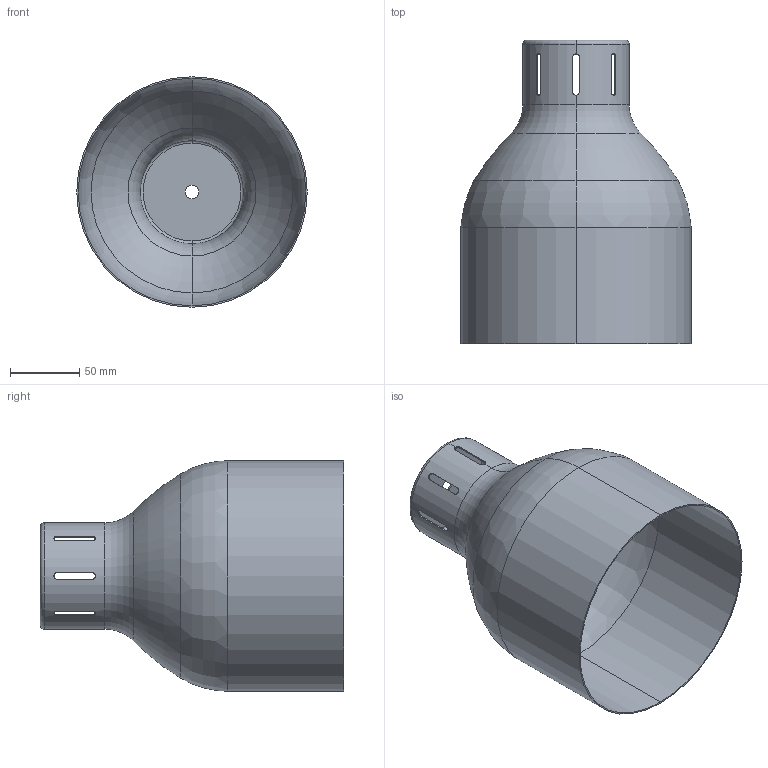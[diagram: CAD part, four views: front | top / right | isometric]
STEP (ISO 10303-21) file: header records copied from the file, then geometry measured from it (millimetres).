
FILE_DESCRIPTION (( 'STEP AP203' ), '1' );
FILE_NAME ('瀇僳鍙 2.STEP', '2024-10-07T04:43:04', ( '' ), ( '' ), 'SwSTEP 2.0', 'SolidWorks 2022', '' );
FILE_SCHEMA (( 'CONFIG_CONTROL_DESIGN' ));
Length unit declared in the file: millimetre
Products named in the file (1): плафон 2
Bounding box: 167 x 220 x 167 mm (x, y, z)
Volume: 98481.3 mm3; surface area: 198044.4 mm2
Topology: 1 solids, 1 shells, 61 faces, 166 edges, 104 vertices
Faces by surface type: cylinder 26, plane 19, torus 16
Entity records: 2989 total; most frequent: CARTESIAN_POINT 1380, ORIENTED_EDGE 332, DIRECTION 298, EDGE_CURVE 166, AXIS2_PLACEMENT_3D 110, VERTEX_POINT 104, LINE 78, VECTOR 78
